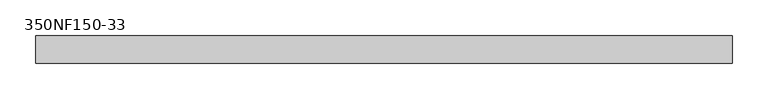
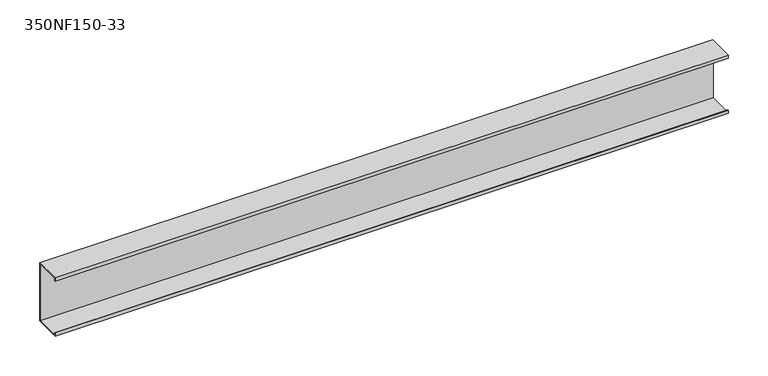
"""IFC4 building model written with IfcOpenShell, lengths in millimetres: beam geometry, BIMSF-SSMA-S : 350NF150-33."""

from ifc_helpers import new_model, si_unit, frame, origin, place, context, project, spatial, polyline, outline, extrude, source, transform, mapped, element, save


def beam_350nf150_33_902c24ac(model_context):
    return source(origin(), model_context, "Body", "SweptSolid", [
        extrude(outline(polyline([(19.05, 44.45), (19.05, -44.45), (-19.05, -44.45), (-19.05, -39.6748), (-18.1676842, -39.6748), (-18.1676842, -43.5676842), (18.1676842, -43.5676842), (18.1676842, 43.5676842), (-18.1676842, 43.5676842), (-18.1676842, 39.6748), (-19.05, 39.6748), (-19.05, 44.45), (19.05, 44.45)])), frame((-486.56875, 0.0, 0.0), z_axis=(1.0, 0.0, 0.0), x_axis=(0.0, 1.0, 0.0)), (0.0, 0.0, 1.0), 973.1375),
    ])


if __name__ == "__main__":
    model = new_model("IFC4")
    model_context = context("Model", 3, world=origin())
    ifc_project = project(units=[si_unit("LENGTHUNIT", "METRE", prefix="MILLI")], contexts=[model_context])
    site = spatial("IfcSite", under=ifc_project)
    building = spatial("IfcBuilding", under=site)
    placement = place(None, origin())
    beam_350nf150_33_shape = beam_350nf150_33_902c24ac(model_context)
    element("IfcBeam", 1, ObjectType="BIMSF-SSMA-S : 350NF150-33", at=placement, inside=building, context=model_context, shape_type="MappedRepresentation", body=[
        mapped(beam_350nf150_33_shape, transform((0.0, 0.0, 0.0), x_axis=(1.0, 0.0, 0.0), y_axis=(0.0, 1.0, 0.0), z_axis=(0.0, 0.0, 1.0))),
    ])
    save(model, "model.ifc")
